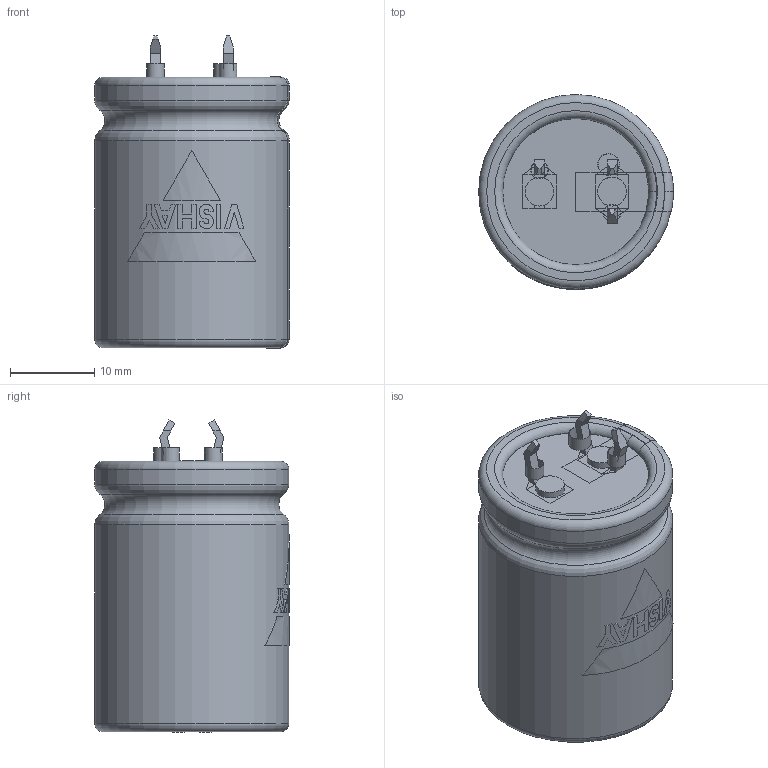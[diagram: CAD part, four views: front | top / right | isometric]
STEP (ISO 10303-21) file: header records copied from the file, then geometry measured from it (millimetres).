
FILE_DESCRIPTION(('FreeCAD Model'),'2;1');
FILE_NAME( 'C:/Users/Gebruiker/Documents/FreeCAD/SnapIn_22x30_3pin_4.0.step', '2020-11-12T21:05:53',('Author'),(''), 'Open CASCADE STEP processor 6.8','FreeCAD','Unknown');
FILE_SCHEMA(('AUTOMOTIVE_DESIGN_CC2 { 1 2 10303 214 -1 1 5 4 }'));
Length unit declared in the file: millimetre
Products named in the file (9): ASSEMBLY; TerminalPlus; Disc; BottomInsulation; Can3D; InkMinusBar; InkLogo; TerminalMinKP; PCBHolesKP
Assembly tree (8 placements, depth 2):
  ASSEMBLY
    TerminalPlus
    Disc
    BottomInsulation
    Can3D
    InkMinusBar
    InkLogo
    TerminalMinKP
    PCBHolesKP
Bounding box: 23.05 x 23.05 x 36.95 mm (x, y, z)
Volume: 14955 mm3; surface area: 7643.6 mm2
Topology: 17 solids, 17 shells, 209 faces, 509 edges, 332 vertices
Faces by surface type: plane 160, cylinder 31, torus 18
Full cylindrical faces by diameter (mm): 2 x2, 2.1 x2, 2.5 x1, 2.6 x1, 3.4 x2, 17.3 x1, 18.4 x2, 23 x2
Entity records: 20979 total; most frequent: CARTESIAN_POINT 9615, DIRECTION 1754, ORIENTED_EDGE 1018, PCURVE 1018, DEFINITIONAL_REPRESENTATION 1018, LINE 980, VECTOR 980, EDGE_CURVE 509
